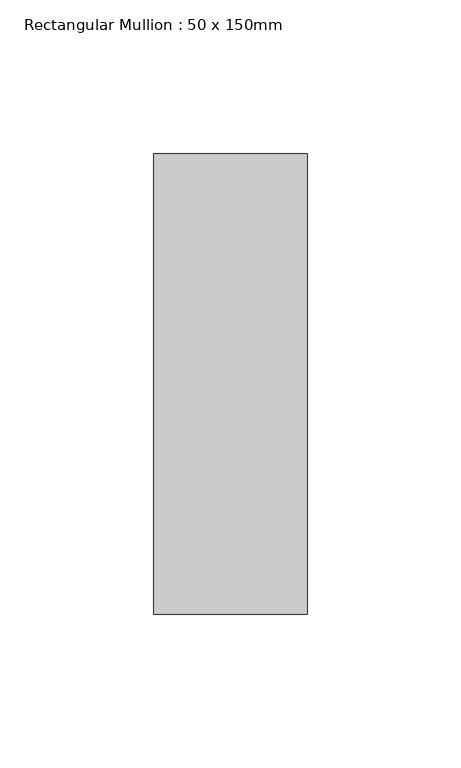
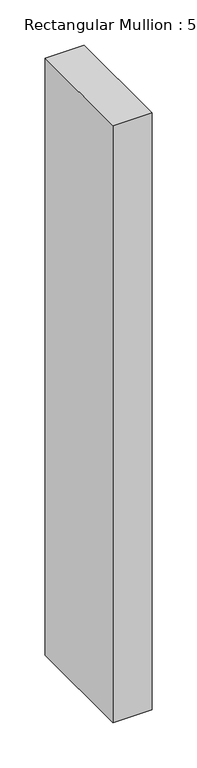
"""IFC4 building model written with IfcOpenShell, lengths in millimetres: member geometry, Rectangular Mullion : 50 x 150mm."""

from ifc_helpers import new_model, si_unit, frame, origin, place, context, project, spatial, polyline, outline, extrude, source, transform, mapped, element, save


def rectangular_mullion_50_x_150mm_658aca72(model_context):
    return source(origin(), model_context, "Body", "SweptSolid", [
        extrude(outline(polyline([(0.0, 75.0), (0.0, -75.0), (-50.0, -75.0), (-50.0, 75.0), (0.0, 75.0)])), frame((0.0, 0.0, -806.2499998), z_axis=(0.0, 0.0, 1.0), x_axis=(1.0, 0.0, 0.0)), (0.0, 0.0, 1.0), 806.2499998),
    ])


if __name__ == "__main__":
    model = new_model("IFC4")
    model_context = context("Model", 3, world=origin())
    ifc_project = project(units=[si_unit("LENGTHUNIT", "METRE", prefix="MILLI")], contexts=[model_context])
    site = spatial("IfcSite", under=ifc_project)
    building = spatial("IfcBuilding", under=site)
    placement = place(None, origin())
    rectangular_mullion_50_x_150mm_shape = rectangular_mullion_50_x_150mm_658aca72(model_context)
    element("IfcMember", 1, ObjectType="Rectangular Mullion : 50 x 150mm", at=placement, inside=building, context=model_context, shape_type="MappedRepresentation", body=[
        mapped(rectangular_mullion_50_x_150mm_shape, transform((0.0, 0.0, 0.0), x_axis=(1.0, 0.0, 0.0), y_axis=(0.0, 1.0, 0.0), z_axis=(0.0, 0.0, 1.0))),
    ])
    save(model, "model.ifc")
